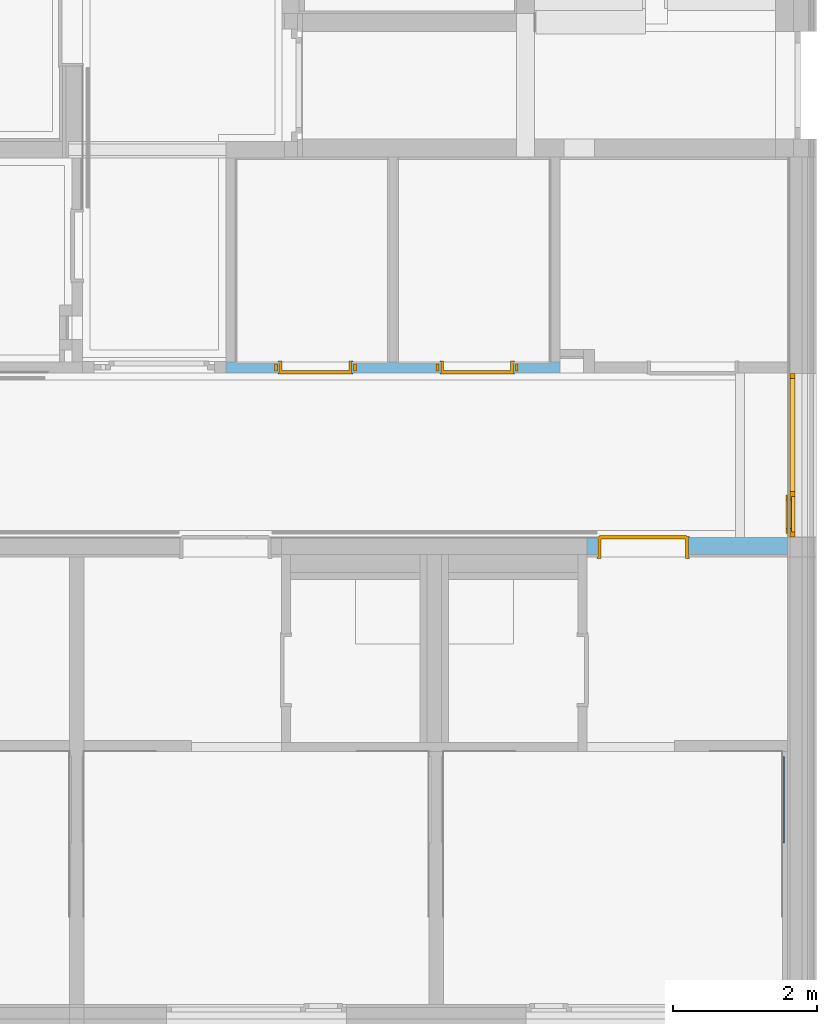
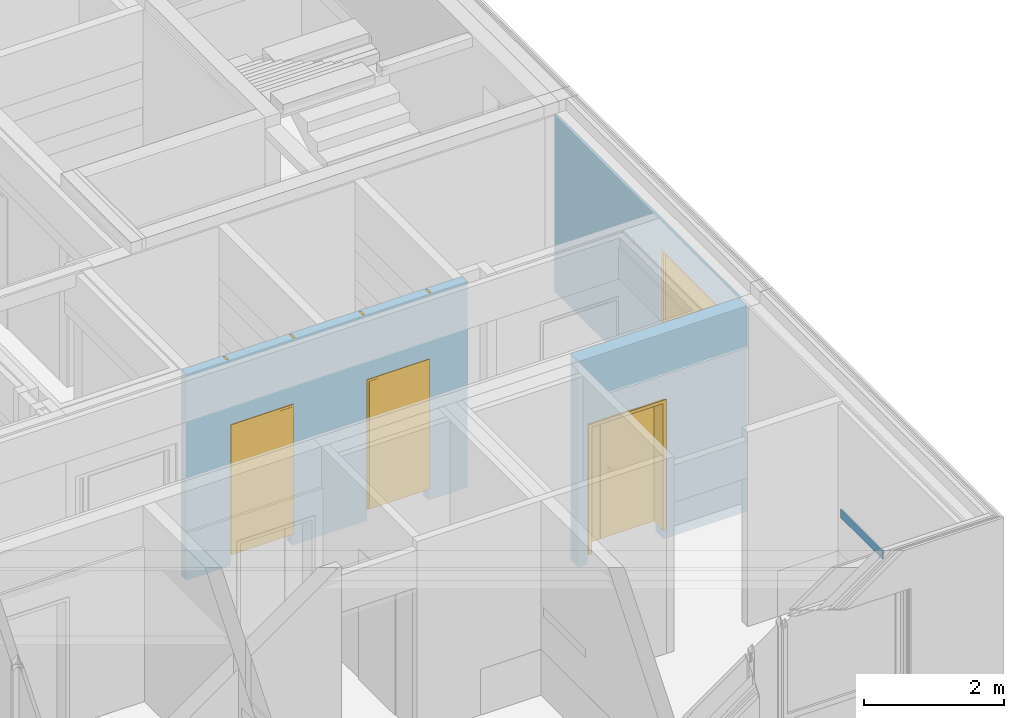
# One storey, part 139 of 207: 3 doors, 1 wall, 1 window, 4 openings, plus 3 elements that do not belong to this part.
"""IFC4 building model written with IfcOpenShell, lengths in metres."""

from ifc_helpers import new_model, entity, si_unit, converted_unit, derived_unit, frame, frame_2d, origin, origin_with_axes, place, context, subcontext, project, spatial, polyline, rectangle, outline, extrude, closed_shell, open_shell, faceted_brep, surface_model, source, transform, mapped, material, type_object, element, fill, save


model = new_model("IFC4")

# Units and contexts
model_context = context("Model", 3, precision=1e-05, world=origin())
body_context = subcontext(model_context, "Body", "Model", "MODEL_VIEW")
ifc_project = project(units=[si_unit("LENGTHUNIT", "METRE"), si_unit("AREAUNIT", "SQUARE_METRE"), si_unit("VOLUMEUNIT", "CUBIC_METRE"), si_unit("MASSUNIT", "GRAM", prefix="KILO"), converted_unit("PLANEANGLEUNIT", "DEGREE", entity("IfcPlaneAngleMeasure", 0.0174532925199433), si_unit("PLANEANGLEUNIT", "RADIAN"), dimensions=[0, 0, 0, 0, 0, 0, 0]), derived_unit("THERMALTRANSMITTANCEUNIT", [(si_unit("POWERUNIT", "WATT"), 1), (si_unit("THERMODYNAMICTEMPERATUREUNIT", "KELVIN"), -1), (si_unit("LENGTHUNIT", "METRE"), -2)]), derived_unit("VOLUMETRICFLOWRATEUNIT", [(si_unit("LENGTHUNIT", "METRE"), 3), (converted_unit("TIMEUNIT", "hour", entity("IfcTimeMeasure", 3600.0), si_unit("TIMEUNIT", "SECOND"), dimensions=[0, 0, 1, 0, 0, 0, 0]), -1), (si_unit("LENGTHUNIT", "METRE"), -1)])], contexts=[model_context])

# Site, building, storey
site_placement = place(None, origin())
site = spatial("IfcSite", under=ifc_project, at=site_placement, Name="Psychiatrie Neubau Wunstorf", CompositionType="ELEMENT")
building_placement = place(site_placement, origin())
building = spatial("IfcBuilding", under=site, at=building_placement, Name="Neubau H2 Stationsgebäude", CompositionType="ELEMENT")
storey_placement = place(building_placement, frame((0.0, 0.0, -0.2)))
storey = spatial("IfcBuildingStorey", under=building, at=storey_placement, Name="H2 Ebene 0", CompositionType="ELEMENT", Elevation=-0.2)

# Wall, opening, window
ifc_material_1 = material(Name="WA-LB")
wall_1_placement = place(storey_placement, frame((105.889, 10.6249998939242, 0.5), z_axis=(0.0, 0.0, 1.0), x_axis=(0.0, -1.0, 0.0)))
wall_1 = element("IfcWall", 1, at=wall_1_placement, inside=storey, material=ifc_material_1, context=body_context, shape_type="SweptSolid", body=[
    extrude(rectangle(XDim=5.29249989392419, YDim=0.036, at=frame_2d((2.6462499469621, 0.018), x_axis=(1.0, 0.0))), origin_with_axes(), (0.0, 0.0, 1.0), 3.1),
])
opening_1_placement = place(wall_1_placement, frame((3.00624994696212, 0.0, 0.1), z_axis=(0.0, 1.0, 0.0), x_axis=(0.0, 0.0, 1.0)))
opening_1 = element("IfcOpeningElement", 2, at=opening_1_placement, cuts=wall_1, Name="Fensteröffnung", ObjectType="Opening", context=body_context, shape_type="SweptSolid", body=[
    extrude(outline(polyline([(2.5, 2.28), (2.5, 0.0), (0.0, 0.0), (0.0, 2.28), (2.5, 2.28)])), origin_with_axes(), (0.0, 0.0, 1.0), 0.036),
])
shared_shape_1 = source(origin_with_axes(), body_context, "Body", "SurfaceModel", [
    surface_model("IfcShellBasedSurfaceModel", [(0.0, 0.0, 2.5), (0.0699999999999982, 0.0, 2.5), (0.0699999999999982, 0.0, 0.0), (0.0, 0.0, 0.0), (0.0, 0.0700000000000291, 0.0), (0.0699999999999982, 0.0700000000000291, 0.0), (0.0699999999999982, 0.0700000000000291, 2.5), (0.0, 0.0700000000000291, 2.5)], [closed_shell([[[0, 1, 2, 3]], [[4, 5, 6, 7]], [[3, 4, 7, 0]], [[2, 5, 4, 3]], [[1, 6, 5, 2]], [[0, 7, 6, 1]]], orient=[[False], [False], [False], [False], [False], [False]])]),
    surface_model("IfcShellBasedSurfaceModel", [(2.21, 0.0, 2.5), (2.28, 0.0, 2.5), (2.28, 0.0, 0.0), (2.21, 0.0, 0.0), (2.21, 0.0700000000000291, 0.0), (2.28, 0.0700000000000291, 0.0), (2.28, 0.0700000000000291, 2.5), (2.21, 0.0700000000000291, 2.5)], [closed_shell([[[0, 1, 2, 3]], [[4, 5, 6, 7]], [[3, 4, 7, 0]], [[2, 5, 4, 3]], [[1, 6, 5, 2]], [[0, 7, 6, 1]]], orient=[[False], [False], [False], [False], [False], [False]])]),
    surface_model("IfcShellBasedSurfaceModel", [(0.0699999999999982, 0.0, 0.07), (2.21, 0.0, 0.07), (2.21, 0.0, 0.0), (0.0699999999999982, 0.0, 0.0), (0.0699999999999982, 0.0700000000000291, 0.0), (2.21, 0.0700000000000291, 0.0), (2.21, 0.0700000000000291, 0.07), (0.0699999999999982, 0.0700000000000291, 0.07)], [closed_shell([[[0, 1, 2, 3]], [[4, 5, 6, 7]], [[3, 4, 7, 0]], [[2, 5, 4, 3]], [[1, 6, 5, 2]], [[0, 7, 6, 1]]], orient=[[False], [False], [False], [False], [False], [False]])]),
    surface_model("IfcShellBasedSurfaceModel", [(0.0699999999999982, 0.0, 2.5), (2.21, 0.0, 2.5), (2.21, 0.0, 2.43), (0.0699999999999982, 0.0, 2.43), (0.0699999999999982, 0.0700000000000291, 2.43), (2.21, 0.0700000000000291, 2.43), (2.21, 0.0700000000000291, 2.5), (0.0699999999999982, 0.0700000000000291, 2.5)], [closed_shell([[[0, 1, 2, 3]], [[4, 5, 6, 7]], [[3, 4, 7, 0]], [[2, 5, 4, 3]], [[1, 6, 5, 2]], [[0, 7, 6, 1]]], orient=[[False], [False], [False], [False], [False], [False]])]),
    surface_model("IfcShellBasedSurfaceModel", [(0.565714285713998, 0.0, 2.43), (0.635714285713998, 0.0, 2.43), (0.635714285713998, 0.0, 0.07), (0.565714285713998, 0.0, 0.07), (0.565714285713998, 0.0700000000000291, 0.07), (0.635714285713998, 0.0700000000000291, 0.07), (0.635714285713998, 0.0700000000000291, 2.43), (0.565714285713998, 0.0700000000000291, 2.43)], [closed_shell([[[0, 1, 2, 3]], [[4, 5, 6, 7]], [[3, 4, 7, 0]], [[2, 5, 4, 3]], [[1, 6, 5, 2]], [[0, 7, 6, 1]]], orient=[[False], [False], [False], [False], [False], [False]])]),
    surface_model("IfcShellBasedSurfaceModel", [(0.0499999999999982, 0.0500000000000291, 2.45), (0.119999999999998, 0.0500000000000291, 2.45), (0.119999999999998, 0.0500000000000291, 0.05), (0.0499999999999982, 0.0500000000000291, 0.05), (0.0499999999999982, 0.120000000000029, 0.05), (0.119999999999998, 0.120000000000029, 0.05), (0.119999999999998, 0.120000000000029, 2.45), (0.0499999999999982, 0.120000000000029, 2.45)], [closed_shell([[[0, 1, 2, 3]], [[4, 5, 6, 7]], [[3, 4, 7, 0]], [[2, 5, 4, 3]], [[1, 6, 5, 2]], [[0, 7, 6, 1]]], orient=[[False], [False], [False], [False], [False], [False]])]),
    surface_model("IfcShellBasedSurfaceModel", [(0.515714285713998, 0.0500000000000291, 2.45), (0.585714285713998, 0.0500000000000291, 2.45), (0.585714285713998, 0.0500000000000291, 0.05), (0.515714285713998, 0.0500000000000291, 0.05), (0.515714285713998, 0.120000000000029, 0.05), (0.585714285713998, 0.120000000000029, 0.05), (0.585714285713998, 0.120000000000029, 2.45), (0.515714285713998, 0.120000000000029, 2.45)], [closed_shell([[[0, 1, 2, 3]], [[4, 5, 6, 7]], [[3, 4, 7, 0]], [[2, 5, 4, 3]], [[1, 6, 5, 2]], [[0, 7, 6, 1]]], orient=[[False], [False], [False], [False], [False], [False]])]),
    surface_model("IfcShellBasedSurfaceModel", [(0.119999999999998, 0.0500000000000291, 0.12), (0.515714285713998, 0.0500000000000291, 0.12), (0.515714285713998, 0.0500000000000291, 0.05), (0.119999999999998, 0.0500000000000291, 0.05), (0.119999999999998, 0.120000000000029, 0.05), (0.515714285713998, 0.120000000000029, 0.05), (0.515714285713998, 0.120000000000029, 0.12), (0.119999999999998, 0.120000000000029, 0.12)], [closed_shell([[[0, 1, 2, 3]], [[4, 5, 6, 7]], [[3, 4, 7, 0]], [[2, 5, 4, 3]], [[1, 6, 5, 2]], [[0, 7, 6, 1]]], orient=[[False], [False], [False], [False], [False], [False]])]),
    surface_model("IfcShellBasedSurfaceModel", [(0.119999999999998, 0.0500000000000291, 2.45), (0.515714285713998, 0.0500000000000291, 2.45), (0.515714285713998, 0.0500000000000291, 2.38), (0.119999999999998, 0.0500000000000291, 2.38), (0.119999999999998, 0.120000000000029, 2.38), (0.515714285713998, 0.120000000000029, 2.38), (0.515714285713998, 0.120000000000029, 2.45), (0.119999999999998, 0.120000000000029, 2.45)], [closed_shell([[[0, 1, 2, 3]], [[4, 5, 6, 7]], [[3, 4, 7, 0]], [[2, 5, 4, 3]], [[1, 6, 5, 2]], [[0, 7, 6, 1]]], orient=[[False], [False], [False], [False], [False], [False]])]),
    surface_model("IfcShellBasedSurfaceModel", [(0.635714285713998, 0.0, 0.77), (2.21, 0.0, 0.77), (2.21, 0.0, 0.67), (0.635714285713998, 0.0, 0.67), (0.635714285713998, 0.0700000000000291, 0.67), (2.21, 0.0700000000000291, 0.67), (2.21, 0.0700000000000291, 0.77), (0.635714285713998, 0.0700000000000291, 0.77)], [closed_shell([[[0, 1, 2, 3]], [[4, 5, 6, 7]], [[3, 4, 7, 0]], [[2, 5, 4, 3]], [[1, 6, 5, 2]], [[0, 7, 6, 1]]], orient=[[False], [False], [False], [False], [False], [False]])]),
    surface_model("IfcShellBasedSurfaceModel", [(0.119999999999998, 0.0850000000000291, 0.12), (0.119999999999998, 0.0850000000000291, 2.38), (0.515714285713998, 0.0850000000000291, 2.38), (0.515714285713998, 0.0850000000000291, 0.12)], [open_shell([[[0, 1, 2, 3]]], orient=[[False]])]),
    surface_model("IfcShellBasedSurfaceModel", [(0.635714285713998, 0.0350000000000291, 0.07), (0.635714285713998, 0.0350000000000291, 0.67), (2.21, 0.0350000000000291, 0.67), (2.21, 0.0350000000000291, 0.07)], [open_shell([[[0, 1, 2, 3]]], orient=[[False]])]),
    surface_model("IfcShellBasedSurfaceModel", [(0.635714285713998, 0.0350000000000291, 0.77), (0.635714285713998, 0.0350000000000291, 2.43), (2.21, 0.0350000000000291, 2.43), (2.21, 0.0350000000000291, 0.77)], [open_shell([[[0, 1, 2, 3]]], orient=[[False]])]),
])
window_placement = place(opening_1_placement, frame((0.0, 2.28, 0.1), z_axis=(1.0, 0.0, 0.0), x_axis=(0.0, -1.0, 0.0)))
window = element("IfcWindow", 3, at=window_placement, inside=storey, Name="Fenster", OverallHeight=2.5, OverallWidth=2.28, PartitioningType="USERDEFINED", PredefinedType="WINDOW", context=body_context, shape_type="MappedRepresentation", body=[
    mapped(shared_shape_1, transform((0.0, 0.0, 0.0), x_axis=(1.0, 0.0, 0.0), y_axis=(0.0, 1.0, 0.0), z_axis=(0.0, 0.0, 1.0), scale=1.0)),
])
fill(opening_1, window)

# Wall
wall_2_placement = place(storey_placement, frame((105.814, 1.08720000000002, 1.625)))
element("IfcWall", 4, at=wall_2_placement, inside=storey, Name="WV 1.1", context=body_context, shape_type="Brep", body=[
    faceted_brep([(0.025, 1.2, 0.0), (0.0, 1.2, 0.0), (0.0, 0.0, 0.0), (0.025, 0.0, 0.0), (0.0, 1.2, 0.15), (0.025, 1.2, 0.15), (0.025, 0.0, 0.15), (0.0, 0.0, 0.15)], [[[0, 1, 2, 3]], [[4, 5, 6, 7]], [[1, 0, 5, 4]], [[2, 1, 4, 7]], [[3, 2, 7, 6]], [[0, 3, 6, 5]]], orient=[[False], [False], [False], [False], [False], [False]]),
])

# Wall, openings, doors
ifc_material_2 = material(Name="WI-LB")
wall_3_placement = place(storey_placement, frame((98.075, 7.62499989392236, 0.0)))
wall_3 = element("IfcWall", 5, at=wall_3_placement, inside=storey, material=ifc_material_2, context=body_context, shape_type="SweptSolid", body=[
    extrude(rectangle(XDim=4.65, YDim=0.15, at=frame_2d((2.325, 0.075), x_axis=(1.0, 0.0))), origin_with_axes(), (0.0, 0.0, 1.0), 3.6),
])
opening_2_placement = place(wall_3_placement, frame((4.0, 0.15, 0.0), z_axis=(0.0, -1.0, 0.0), x_axis=(0.0, 0.0, 1.0)))
opening_2 = element("IfcOpeningElement", 6, at=opening_2_placement, cuts=wall_3, Name="Türöffnung", ObjectType="Opening", context=body_context, shape_type="SweptSolid", body=[
    extrude(outline(polyline([(2.46, 1.01), (2.46, 0.0), (0.0, 0.0), (0.0, 1.01), (2.46, 1.01)])), origin_with_axes(), (0.0, 0.0, 1.0), 0.15),
])
opening_3_placement = place(wall_3_placement, frame((1.75, 0.15, 0.0), z_axis=(0.0, -1.0, 0.0), x_axis=(0.0, 0.0, 1.0)))
opening_3 = element("IfcOpeningElement", 7, at=opening_3_placement, cuts=wall_3, Name="Türöffnung", ObjectType="Opening", context=body_context, shape_type="SweptSolid", body=[
    extrude(outline(polyline([(2.46, 1.01), (2.46, 0.0), (0.0, 0.0), (0.0, 1.01), (2.46, 1.01)])), origin_with_axes(), (0.0, 0.0, 1.0), 0.15),
])
ifc_material_3 = material(Name="TI-1F-UZ-ZK")
door_type_1 = type_object("IfcDoorType", Name="SMT", OperationType="SINGLE_SWING_RIGHT", ParameterTakesPrecedence=False, PredefinedType="DOOR")
shared_shape_2 = source(origin_with_axes(), body_context, "Body", "Brep", [
    faceted_brep([(-0.065, 0.0250000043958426, 0.0), (-0.025, 0.0250000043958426, 0.0), (-0.025, 0.124999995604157, 0.0), (-0.065, 0.124999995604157, 0.0), (-0.065, 0.124999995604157, 3.6), (-0.025, 0.124999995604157, 3.6), (-0.025, 0.0250000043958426, 3.6), (-0.065, 0.0250000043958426, 3.6)], [[[0, 1, 2, 3]], [[4, 5, 6, 7]], [[3, 4, 7, 0]], [[2, 5, 4, 3]], [[1, 6, 5, 2]], [[0, 7, 6, 1]]], orient=[[False], [False], [False], [False], [False], [False]]),
    faceted_brep([(1.035, 0.0250000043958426, 0.0), (1.075, 0.0250000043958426, 0.0), (1.075, 0.124999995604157, 0.0), (1.035, 0.124999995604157, 0.0), (1.035, 0.124999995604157, 3.6), (1.075, 0.124999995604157, 3.6), (1.075, 0.0250000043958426, 3.6), (1.035, 0.0250000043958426, 3.6)], [[[0, 1, 2, 3]], [[4, 5, 6, 7]], [[3, 4, 7, 0]], [[2, 5, 4, 3]], [[1, 6, 5, 2]], [[0, 7, 6, 1]]], orient=[[False], [False], [False], [False], [False], [False]]),
    faceted_brep([(-0.025, 0.0250000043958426, 2.485), (1.035, 0.0250000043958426, 2.485), (1.035, 0.124999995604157, 2.485), (-0.025, 0.124999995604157, 2.485), (-0.025, 0.124999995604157, 2.525), (1.035, 0.124999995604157, 2.525), (1.035, 0.0250000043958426, 2.525), (-0.025, 0.0250000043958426, 2.525)], [[[0, 1, 2, 3]], [[4, 5, 6, 7]], [[3, 4, 7, 0]], [[2, 5, 4, 3]], [[1, 6, 5, 2]], [[0, 7, 6, 1]]], orient=[[False], [False], [False], [False], [False], [False]]),
])
shared_shape_3 = source(origin_with_axes(), body_context, "Body", "Brep", [
    faceted_brep([(0.0, -0.015, 2.46), (0.04, -0.015, 2.46), (0.04, -0.015, 0.2), (0.0, -0.015, 0.2), (0.0, 0.165, 0.2), (0.04, 0.165, 0.2), (0.04, 0.165, 2.46), (0.0, 0.165, 2.46)], [[[0, 1, 2, 3]], [[4, 5, 6, 7]], [[3, 4, 7, 0]], [[2, 5, 4, 3]], [[1, 6, 5, 2]], [[0, 7, 6, 1]]], orient=[[False], [False], [False], [False], [False], [False]]),
    faceted_brep([(0.0, -0.015, 2.475), (0.0, -0.015, 0.2), (-0.015, -0.015, 0.2), (-0.015, -0.015, 2.475), (0.0, 0.0, 0.2), (0.0, 0.0, 2.475), (-0.015, 0.0, 2.475), (-0.015, 0.0, 0.2)], [[[0, 1, 2, 3]], [[4, 5, 6, 7]], [[1, 0, 5, 4]], [[2, 1, 4, 7]], [[3, 2, 7, 6]], [[0, 3, 6, 5]]], orient=[[False], [False], [False], [False], [False], [False]]),
    faceted_brep([(0.0, 0.15, 2.475), (0.0, 0.15, 0.2), (-0.015, 0.15, 0.2), (-0.015, 0.15, 2.475), (0.0, 0.165, 0.2), (0.0, 0.165, 2.475), (-0.015, 0.165, 2.475), (-0.015, 0.165, 0.2)], [[[0, 1, 2, 3]], [[4, 5, 6, 7]], [[1, 0, 5, 4]], [[2, 1, 4, 7]], [[3, 2, 7, 6]], [[0, 3, 6, 5]]], orient=[[False], [False], [False], [False], [False], [False]]),
    faceted_brep([(0.97, -0.0150000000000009, 2.46), (1.01, -0.0150000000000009, 2.46), (1.01, -0.015, 0.2), (0.97, -0.015, 0.2), (0.97, 0.165, 0.2), (1.01, 0.165, 0.2), (1.01, 0.164999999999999, 2.46), (0.97, 0.164999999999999, 2.46)], [[[0, 1, 2, 3]], [[4, 5, 6, 7]], [[3, 4, 7, 0]], [[2, 5, 4, 3]], [[1, 6, 5, 2]], [[0, 7, 6, 1]]], orient=[[False], [False], [False], [False], [False], [False]]),
    faceted_brep([(1.01, -0.0150000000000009, 2.475), (1.025, -0.0150000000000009, 2.475), (1.025, -0.015, 0.2), (1.01, -0.015, 0.2), (1.01, 0.0, 0.2), (1.025, 0.0, 0.2), (1.025, 0.0, 2.475), (1.01, 0.0, 2.475)], [[[0, 1, 2, 3]], [[4, 5, 6, 7]], [[3, 4, 7, 0]], [[2, 5, 4, 3]], [[1, 6, 5, 2]], [[0, 7, 6, 1]]], orient=[[False], [False], [False], [False], [False], [False]]),
    faceted_brep([(1.01, 0.149999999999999, 2.475), (1.025, 0.149999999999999, 2.475), (1.025, 0.15, 0.2), (1.01, 0.15, 0.2), (1.01, 0.165, 0.2), (1.025, 0.165, 0.2), (1.025, 0.164999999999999, 2.475), (1.01, 0.164999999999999, 2.475)], [[[0, 1, 2, 3]], [[4, 5, 6, 7]], [[3, 4, 7, 0]], [[2, 5, 4, 3]], [[1, 6, 5, 2]], [[0, 7, 6, 1]]], orient=[[False], [False], [False], [False], [False], [False]]),
    faceted_brep([(0.04, -0.015, 2.46), (0.97, -0.0150000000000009, 2.46), (0.97, -0.0150000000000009, 2.42), (0.04, -0.015, 2.42), (0.04, 0.165, 2.42), (0.97, 0.164999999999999, 2.42), (0.97, 0.164999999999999, 2.46), (0.04, 0.165, 2.46)], [[[0, 1, 2, 3]], [[4, 5, 6, 7]], [[3, 4, 7, 0]], [[2, 5, 4, 3]], [[1, 6, 5, 2]], [[0, 7, 6, 1]]], orient=[[False], [False], [False], [False], [False], [False]]),
    faceted_brep([(0.0, -0.015, 2.475), (1.01, -0.0150000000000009, 2.475), (1.01, -0.0150000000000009, 2.46), (0.0, -0.015, 2.46), (0.0, 0.0, 2.46), (1.01, 0.0, 2.46), (1.01, 0.0, 2.475), (0.0, 0.0, 2.475)], [[[0, 1, 2, 3]], [[4, 5, 6, 7]], [[3, 4, 7, 0]], [[2, 5, 4, 3]], [[1, 6, 5, 2]], [[0, 7, 6, 1]]], orient=[[False], [False], [False], [False], [False], [False]]),
    faceted_brep([(0.0, 0.15, 2.475), (1.01, 0.149999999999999, 2.475), (1.01, 0.149999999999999, 2.46), (0.0, 0.15, 2.46), (0.0, 0.165, 2.46), (1.01, 0.164999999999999, 2.46), (1.01, 0.164999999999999, 2.475), (0.0, 0.165, 2.475)], [[[0, 1, 2, 3]], [[4, 5, 6, 7]], [[3, 4, 7, 0]], [[2, 5, 4, 3]], [[1, 6, 5, 2]], [[0, 7, 6, 1]]], orient=[[False], [False], [False], [False], [False], [False]]),
    faceted_brep([(0.025, 0.116, 2.435), (0.985, 0.115999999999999, 2.435), (0.985, 0.116, 0.2), (0.025, 0.116, 0.2), (0.025, 0.166, 0.2), (0.985, 0.166, 0.2), (0.985, 0.165999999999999, 2.435), (0.025, 0.166, 2.435)], [[[0, 1, 2, 3]], [[4, 5, 6, 7]], [[3, 4, 7, 0]], [[2, 5, 4, 3]], [[1, 6, 5, 2]], [[0, 7, 6, 1]]], orient=[[False], [False], [False], [False], [False], [False]]),
])
door_1_placement = place(opening_2_placement, frame((0.0, 0.0, 0.0), z_axis=(1.0, 0.0, 0.0), x_axis=(0.0, 1.0, 0.0)))
door_1 = element("IfcDoor", 8, at=door_1_placement, inside=storey, type_object=door_type_1, material=ifc_material_3, Name="SMT", OverallHeight=2.46, OverallWidth=1.01, context=body_context, shape_type="MappedRepresentation", body=[
    mapped(shared_shape_2, transform((0.0, 0.0, 0.0), x_axis=(1.0, 0.0, 0.0), y_axis=(0.0, 1.0, 0.0), z_axis=(0.0, 0.0, 1.0), scale=1.0)),
    mapped(shared_shape_3, transform((0.0, 0.0, 0.0), x_axis=(1.0, 0.0, 0.0), y_axis=(0.0, 1.0, 0.0), z_axis=(0.0, 0.0, 1.0), scale=1.0)),
])
fill(opening_2, door_1)
ifc_material_4 = material(Name="TI-1F-UZ-ZK")
door_type_2 = type_object("IfcDoorType", Name="SMT", OperationType="SINGLE_SWING_RIGHT", ParameterTakesPrecedence=False, PredefinedType="DOOR")
shared_shape_4 = source(origin_with_axes(), body_context, "Body", "Brep", [
    faceted_brep([(-0.065, 0.0250000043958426, 0.0), (-0.025, 0.0250000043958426, 0.0), (-0.025, 0.124999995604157, 0.0), (-0.065, 0.124999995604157, 0.0), (-0.065, 0.124999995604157, 3.6), (-0.025, 0.124999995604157, 3.6), (-0.025, 0.0250000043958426, 3.6), (-0.065, 0.0250000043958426, 3.6)], [[[0, 1, 2, 3]], [[4, 5, 6, 7]], [[3, 4, 7, 0]], [[2, 5, 4, 3]], [[1, 6, 5, 2]], [[0, 7, 6, 1]]], orient=[[False], [False], [False], [False], [False], [False]]),
    faceted_brep([(1.035, 0.0250000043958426, 0.0), (1.075, 0.0250000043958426, 0.0), (1.075, 0.124999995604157, 0.0), (1.035, 0.124999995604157, 0.0), (1.035, 0.124999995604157, 3.6), (1.075, 0.124999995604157, 3.6), (1.075, 0.0250000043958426, 3.6), (1.035, 0.0250000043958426, 3.6)], [[[0, 1, 2, 3]], [[4, 5, 6, 7]], [[3, 4, 7, 0]], [[2, 5, 4, 3]], [[1, 6, 5, 2]], [[0, 7, 6, 1]]], orient=[[False], [False], [False], [False], [False], [False]]),
    faceted_brep([(-0.025, 0.0250000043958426, 2.485), (1.035, 0.0250000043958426, 2.485), (1.035, 0.124999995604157, 2.485), (-0.025, 0.124999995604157, 2.485), (-0.025, 0.124999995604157, 2.525), (1.035, 0.124999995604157, 2.525), (1.035, 0.0250000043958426, 2.525), (-0.025, 0.0250000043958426, 2.525)], [[[0, 1, 2, 3]], [[4, 5, 6, 7]], [[3, 4, 7, 0]], [[2, 5, 4, 3]], [[1, 6, 5, 2]], [[0, 7, 6, 1]]], orient=[[False], [False], [False], [False], [False], [False]]),
])
shared_shape_5 = source(origin_with_axes(), body_context, "Body", "Brep", [
    faceted_brep([(0.0, -0.015, 2.46), (0.04, -0.015, 2.46), (0.04, -0.015, 0.2), (0.0, -0.015, 0.2), (0.0, 0.165, 0.2), (0.04, 0.165, 0.2), (0.04, 0.165, 2.46), (0.0, 0.165, 2.46)], [[[0, 1, 2, 3]], [[4, 5, 6, 7]], [[3, 4, 7, 0]], [[2, 5, 4, 3]], [[1, 6, 5, 2]], [[0, 7, 6, 1]]], orient=[[False], [False], [False], [False], [False], [False]]),
    faceted_brep([(0.0, -0.015, 2.475), (0.0, -0.015, 0.2), (-0.015, -0.015, 0.2), (-0.015, -0.015, 2.475), (0.0, 0.0, 0.2), (0.0, 0.0, 2.475), (-0.015, 0.0, 2.475), (-0.015, 0.0, 0.2)], [[[0, 1, 2, 3]], [[4, 5, 6, 7]], [[1, 0, 5, 4]], [[2, 1, 4, 7]], [[3, 2, 7, 6]], [[0, 3, 6, 5]]], orient=[[False], [False], [False], [False], [False], [False]]),
    faceted_brep([(0.0, 0.15, 2.475), (0.0, 0.15, 0.2), (-0.015, 0.15, 0.2), (-0.015, 0.15, 2.475), (0.0, 0.165, 0.2), (0.0, 0.165, 2.475), (-0.015, 0.165, 2.475), (-0.015, 0.165, 0.2)], [[[0, 1, 2, 3]], [[4, 5, 6, 7]], [[1, 0, 5, 4]], [[2, 1, 4, 7]], [[3, 2, 7, 6]], [[0, 3, 6, 5]]], orient=[[False], [False], [False], [False], [False], [False]]),
    faceted_brep([(0.97, -0.0150000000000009, 2.46), (1.01, -0.0150000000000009, 2.46), (1.01, -0.015, 0.2), (0.97, -0.015, 0.2), (0.97, 0.165, 0.2), (1.01, 0.165, 0.2), (1.01, 0.164999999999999, 2.46), (0.97, 0.164999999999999, 2.46)], [[[0, 1, 2, 3]], [[4, 5, 6, 7]], [[3, 4, 7, 0]], [[2, 5, 4, 3]], [[1, 6, 5, 2]], [[0, 7, 6, 1]]], orient=[[False], [False], [False], [False], [False], [False]]),
    faceted_brep([(1.01, -0.0150000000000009, 2.475), (1.025, -0.0150000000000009, 2.475), (1.025, -0.015, 0.2), (1.01, -0.015, 0.2), (1.01, 0.0, 0.2), (1.025, 0.0, 0.2), (1.025, 0.0, 2.475), (1.01, 0.0, 2.475)], [[[0, 1, 2, 3]], [[4, 5, 6, 7]], [[3, 4, 7, 0]], [[2, 5, 4, 3]], [[1, 6, 5, 2]], [[0, 7, 6, 1]]], orient=[[False], [False], [False], [False], [False], [False]]),
    faceted_brep([(1.01, 0.149999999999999, 2.475), (1.025, 0.149999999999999, 2.475), (1.025, 0.15, 0.2), (1.01, 0.15, 0.2), (1.01, 0.165, 0.2), (1.025, 0.165, 0.2), (1.025, 0.164999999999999, 2.475), (1.01, 0.164999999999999, 2.475)], [[[0, 1, 2, 3]], [[4, 5, 6, 7]], [[3, 4, 7, 0]], [[2, 5, 4, 3]], [[1, 6, 5, 2]], [[0, 7, 6, 1]]], orient=[[False], [False], [False], [False], [False], [False]]),
    faceted_brep([(0.04, -0.015, 2.46), (0.97, -0.0150000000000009, 2.46), (0.97, -0.0150000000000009, 2.42), (0.04, -0.015, 2.42), (0.04, 0.165, 2.42), (0.97, 0.164999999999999, 2.42), (0.97, 0.164999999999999, 2.46), (0.04, 0.165, 2.46)], [[[0, 1, 2, 3]], [[4, 5, 6, 7]], [[3, 4, 7, 0]], [[2, 5, 4, 3]], [[1, 6, 5, 2]], [[0, 7, 6, 1]]], orient=[[False], [False], [False], [False], [False], [False]]),
    faceted_brep([(0.0, -0.015, 2.475), (1.01, -0.0150000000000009, 2.475), (1.01, -0.0150000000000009, 2.46), (0.0, -0.015, 2.46), (0.0, 0.0, 2.46), (1.01, 0.0, 2.46), (1.01, 0.0, 2.475), (0.0, 0.0, 2.475)], [[[0, 1, 2, 3]], [[4, 5, 6, 7]], [[3, 4, 7, 0]], [[2, 5, 4, 3]], [[1, 6, 5, 2]], [[0, 7, 6, 1]]], orient=[[False], [False], [False], [False], [False], [False]]),
    faceted_brep([(0.0, 0.15, 2.475), (1.01, 0.149999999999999, 2.475), (1.01, 0.149999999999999, 2.46), (0.0, 0.15, 2.46), (0.0, 0.165, 2.46), (1.01, 0.164999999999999, 2.46), (1.01, 0.164999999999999, 2.475), (0.0, 0.165, 2.475)], [[[0, 1, 2, 3]], [[4, 5, 6, 7]], [[3, 4, 7, 0]], [[2, 5, 4, 3]], [[1, 6, 5, 2]], [[0, 7, 6, 1]]], orient=[[False], [False], [False], [False], [False], [False]]),
    faceted_brep([(0.025, 0.116, 2.435), (0.985, 0.115999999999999, 2.435), (0.985, 0.116, 0.2), (0.025, 0.116, 0.2), (0.025, 0.166, 0.2), (0.985, 0.166, 0.2), (0.985, 0.165999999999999, 2.435), (0.025, 0.166, 2.435)], [[[0, 1, 2, 3]], [[4, 5, 6, 7]], [[3, 4, 7, 0]], [[2, 5, 4, 3]], [[1, 6, 5, 2]], [[0, 7, 6, 1]]], orient=[[False], [False], [False], [False], [False], [False]]),
])
door_2_placement = place(opening_3_placement, frame((0.0, 0.0, 0.0), z_axis=(1.0, 0.0, 0.0), x_axis=(0.0, 1.0, 0.0)))
door_2 = element("IfcDoor", 9, at=door_2_placement, inside=storey, type_object=door_type_2, material=ifc_material_4, Name="SMT", OverallHeight=2.46, OverallWidth=1.01, context=body_context, shape_type="MappedRepresentation", body=[
    mapped(shared_shape_4, transform((0.0, 0.0, 0.0), x_axis=(1.0, 0.0, 0.0), y_axis=(0.0, 1.0, 0.0), z_axis=(0.0, 0.0, 1.0), scale=1.0)),
    mapped(shared_shape_5, transform((0.0, 0.0, 0.0), x_axis=(1.0, 0.0, 0.0), y_axis=(0.0, 1.0, 0.0), z_axis=(0.0, 0.0, 1.0), scale=1.0)),
])
fill(opening_3, door_2)

# Wall, opening, door
ifc_material_5 = material(Name="WI-HW 60")
wall_4_placement = place(storey_placement, frame((105.889, 5.3325, 0.0), z_axis=(0.0, 0.0, 1.0), x_axis=(-1.0, 0.0, 0.0)))
wall_4 = element("IfcWall", 10, at=wall_4_placement, inside=storey, material=ifc_material_5, context=body_context, shape_type="SweptSolid", body=[
    extrude(rectangle(XDim=2.789, YDim=0.232, at=frame_2d((1.3945, 0.116), x_axis=(1.0, 0.0))), origin_with_axes(), (0.0, 0.0, 1.0), 3.6),
])
opening_4_placement = place(wall_4_placement, frame((1.379, 0.0, 0.0), z_axis=(0.0, 1.0, 0.0), x_axis=(0.0, 0.0, 1.0)))
opening_4 = element("IfcOpeningElement", 11, at=opening_4_placement, cuts=wall_4, Name="Türöffnung", ObjectType="Opening", context=body_context, shape_type="SweptSolid", body=[
    extrude(outline(polyline([(2.46, 1.26), (2.46, 0.0), (0.0, 0.0), (0.0, 1.26), (2.46, 1.26)])), origin_with_axes(), (0.0, 0.0, 1.0), 0.232),
])
ifc_material_6 = material(Name="TI-2F-UZ-D")
door_type_3 = type_object("IfcDoorType", Name="SMT", OperationType="DOUBLE_DOOR_SINGLE_SWING", ParameterTakesPrecedence=False, PredefinedType="DOOR")
shared_shape_6 = source(origin_with_axes(), body_context, "Body", "Brep", [
    faceted_brep([(1.26, -0.015, 2.46), (1.26, -0.015, 0.2), (1.22, -0.015, 0.2), (1.22, -0.015, 2.46), (1.26, 0.287, 0.2), (1.26, 0.287, 2.46), (1.22, 0.287, 2.46), (1.22, 0.287, 0.2)], [[[0, 1, 2, 3]], [[4, 5, 6, 7]], [[1, 0, 5, 4]], [[2, 1, 4, 7]], [[3, 2, 7, 6]], [[0, 3, 6, 5]]], orient=[[False], [False], [False], [False], [False], [False]]),
    faceted_brep([(1.26, -0.015, 2.475), (1.275, -0.015, 2.475), (1.275, -0.015, 0.2), (1.26, -0.015, 0.2), (1.26, 0.0, 0.2), (1.275, 0.0, 0.2), (1.275, 0.0, 2.475), (1.26, 0.0, 2.475)], [[[0, 1, 2, 3]], [[4, 5, 6, 7]], [[3, 4, 7, 0]], [[2, 5, 4, 3]], [[1, 6, 5, 2]], [[0, 7, 6, 1]]], orient=[[False], [False], [False], [False], [False], [False]]),
    faceted_brep([(1.26, 0.272, 2.475), (1.275, 0.272, 2.475), (1.275, 0.272, 0.2), (1.26, 0.272, 0.2), (1.26, 0.287, 0.2), (1.275, 0.287, 0.2), (1.275, 0.287, 2.475), (1.26, 0.287, 2.475)], [[[0, 1, 2, 3]], [[4, 5, 6, 7]], [[3, 4, 7, 0]], [[2, 5, 4, 3]], [[1, 6, 5, 2]], [[0, 7, 6, 1]]], orient=[[False], [False], [False], [False], [False], [False]]),
    faceted_brep([(0.04, -0.015, 2.46), (0.04, -0.015, 0.2), (0.0, -0.015, 0.2), (0.0, -0.015, 2.46), (0.04, 0.287, 0.2), (0.04, 0.287, 2.46), (0.0, 0.287, 2.46), (0.0, 0.287, 0.2)], [[[0, 1, 2, 3]], [[4, 5, 6, 7]], [[1, 0, 5, 4]], [[2, 1, 4, 7]], [[3, 2, 7, 6]], [[0, 3, 6, 5]]], orient=[[False], [False], [False], [False], [False], [False]]),
    faceted_brep([(0.0, -0.015, 2.475), (0.0, -0.015, 0.2), (-0.015, -0.015, 0.2), (-0.015, -0.015, 2.475), (0.0, 0.0, 0.2), (0.0, 0.0, 2.475), (-0.015, 0.0, 2.475), (-0.015, 0.0, 0.2)], [[[0, 1, 2, 3]], [[4, 5, 6, 7]], [[1, 0, 5, 4]], [[2, 1, 4, 7]], [[3, 2, 7, 6]], [[0, 3, 6, 5]]], orient=[[False], [False], [False], [False], [False], [False]]),
    faceted_brep([(0.0, 0.272, 2.475), (0.0, 0.272, 0.2), (-0.015, 0.272, 0.2), (-0.015, 0.272, 2.475), (0.0, 0.287, 0.2), (0.0, 0.287, 2.475), (-0.015, 0.287, 2.475), (-0.015, 0.287, 0.2)], [[[0, 1, 2, 3]], [[4, 5, 6, 7]], [[1, 0, 5, 4]], [[2, 1, 4, 7]], [[3, 2, 7, 6]], [[0, 3, 6, 5]]], orient=[[False], [False], [False], [False], [False], [False]]),
    faceted_brep([(1.22, -0.015, 2.46), (1.22, -0.015, 2.42), (0.04, -0.015, 2.42), (0.04, -0.015, 2.46), (1.22, 0.287, 2.42), (1.22, 0.287, 2.46), (0.04, 0.287, 2.46), (0.04, 0.287, 2.42)], [[[0, 1, 2, 3]], [[4, 5, 6, 7]], [[1, 0, 5, 4]], [[2, 1, 4, 7]], [[3, 2, 7, 6]], [[0, 3, 6, 5]]], orient=[[False], [False], [False], [False], [False], [False]]),
    faceted_brep([(1.26, -0.015, 2.475), (1.26, -0.015, 2.46), (0.0, -0.015, 2.46), (0.0, -0.015, 2.475), (1.26, 0.0, 2.46), (1.26, 0.0, 2.475), (0.0, 0.0, 2.475), (0.0, 0.0, 2.46)], [[[0, 1, 2, 3]], [[4, 5, 6, 7]], [[1, 0, 5, 4]], [[2, 1, 4, 7]], [[3, 2, 7, 6]], [[0, 3, 6, 5]]], orient=[[False], [False], [False], [False], [False], [False]]),
    faceted_brep([(1.26, 0.272, 2.475), (1.26, 0.272, 2.46), (0.0, 0.272, 2.46), (0.0, 0.272, 2.475), (1.26, 0.287, 2.46), (1.26, 0.287, 2.475), (0.0, 0.287, 2.475), (0.0, 0.287, 2.46)], [[[0, 1, 2, 3]], [[4, 5, 6, 7]], [[1, 0, 5, 4]], [[2, 1, 4, 7]], [[3, 2, 7, 6]], [[0, 3, 6, 5]]], orient=[[False], [False], [False], [False], [False], [False]]),
    faceted_brep([(1.235, 0.252, 2.435), (1.235, 0.252, 0.2), (0.335, 0.252, 0.2), (0.335, 0.252, 2.435), (1.235, 0.302, 0.2), (1.235, 0.302, 2.435), (0.335, 0.302, 2.435), (0.335, 0.302, 0.2)], [[[0, 1, 2, 3]], [[4, 5, 6, 7]], [[1, 0, 5, 4]], [[2, 1, 4, 7]], [[3, 2, 7, 6]], [[0, 3, 6, 5]]], orient=[[False], [False], [False], [False], [False], [False]]),
    faceted_brep([(0.334, 0.252, 2.435), (0.334, 0.252, 0.2), (0.025, 0.252, 0.2), (0.025, 0.252, 2.435), (0.334, 0.302, 0.2), (0.334, 0.302, 2.435), (0.025, 0.302, 2.435), (0.025, 0.302, 0.2)], [[[0, 1, 2, 3]], [[4, 5, 6, 7]], [[1, 0, 5, 4]], [[2, 1, 4, 7]], [[3, 2, 7, 6]], [[0, 3, 6, 5]]], orient=[[False], [False], [False], [False], [False], [False]]),
])
door_3_placement = place(opening_4_placement, frame((0.0, 1.26, 0.272), z_axis=(1.0, 0.0, 0.0), x_axis=(0.0, -1.0, 0.0)))
door_3 = element("IfcDoor", 12, at=door_3_placement, inside=storey, type_object=door_type_3, material=ifc_material_6, Name="SMT", OverallHeight=2.46, OverallWidth=1.26, context=body_context, shape_type="MappedRepresentation", body=[
    mapped(shared_shape_6, transform((0.0, 0.0, 0.0), x_axis=(1.0, 0.0, 0.0), y_axis=(0.0, 1.0, 0.0), z_axis=(0.0, 0.0, 1.0), scale=1.0)),
])
fill(opening_4, door_3)

save(model, "model.ifc")
